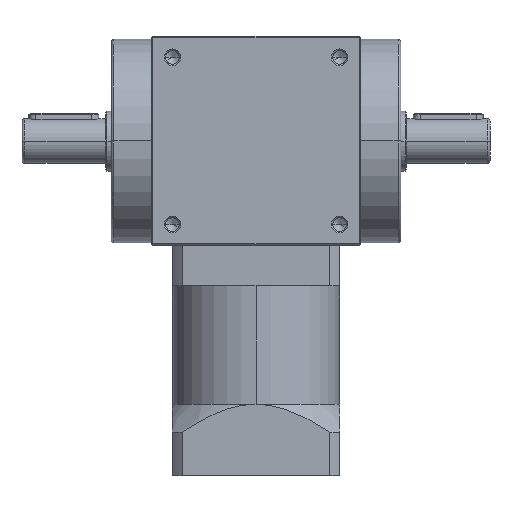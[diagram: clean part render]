
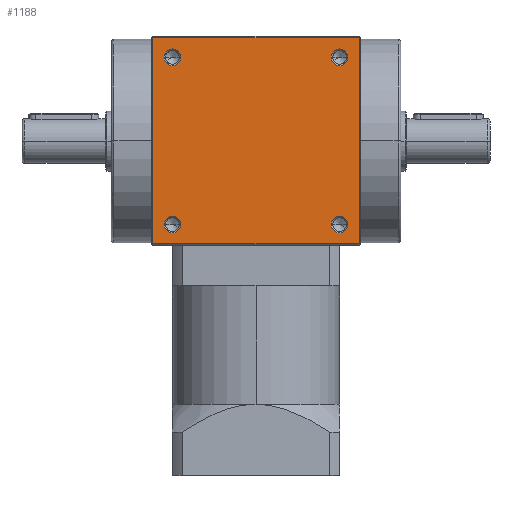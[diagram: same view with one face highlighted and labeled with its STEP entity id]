
A CAD part, top view. The second image highlights one B-rep face of the part: STEP entity #1188.
In plain terms, the highlighted planar face has unit normal (0, 0, 1).
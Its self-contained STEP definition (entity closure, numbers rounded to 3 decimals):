
#41 = CARTESIAN_POINT ( 'NONE',  ( 33., 30., 37.5 ) ) ;
#165 = DIRECTION ( 'NONE',  ( 0., 0., -1. ) ) ;
#224 = AXIS2_PLACEMENT_3D ( 'NONE', #1734, #4030, #7824 ) ;
#314 = ORIENTED_EDGE ( 'NONE', *, *, #6666, .T. ) ;
#406 = AXIS2_PLACEMENT_3D ( 'NONE', #3429, #3557, #490 ) ;
#490 = DIRECTION ( 'NONE',  ( -1., 0., 0. ) ) ;
#520 = CARTESIAN_POINT ( 'NONE',  ( -30., 30., 37.5 ) ) ;
#644 = CARTESIAN_POINT ( 'NONE',  ( 30., 30., 37.5 ) ) ;
#643 = VECTOR ( 'NONE', #5135, 1000. ) ;
#816 = DIRECTION ( 'NONE',  ( -1., 0., 0. ) ) ;
#983 = CARTESIAN_POINT ( 'NONE',  ( 0., -37., 37.5 ) ) ;
#1014 = VECTOR ( 'NONE', #9259, 1000. ) ;
#1105 = EDGE_LOOP ( 'NONE', ( #3261, #314 ) ) ;
#1188 = ADVANCED_FACE ( 'NONE', ( #5307, #4345, #5920, #3864, #3046 ), #5542, .F. ) ;
#1217 = VERTEX_POINT ( 'NONE', #8556 ) ;
#1344 = EDGE_CURVE ( 'NONE', #1897, #4142, #3997, .T. ) ;
#1401 = VERTEX_POINT ( 'NONE', #3570 ) ;
#1595 = LINE ( 'NONE', #6840, #1014 ) ;
#1614 = VERTEX_POINT ( 'NONE', #6901 ) ;
#1715 = EDGE_CURVE ( 'NONE', #3145, #5729, #5777, .T. ) ;
#1734 = CARTESIAN_POINT ( 'NONE',  ( -30., -30., 37.5 ) ) ;
#1737 = DIRECTION ( 'NONE',  ( 0., 0., -1. ) ) ;
#1738 = ORIENTED_EDGE ( 'NONE', *, *, #2534, .T. ) ;
#1882 = CARTESIAN_POINT ( 'NONE',  ( -37., -37., 37.5 ) ) ;
#1897 = VERTEX_POINT ( 'NONE', #6557 ) ;
#2459 = CARTESIAN_POINT ( 'NONE',  ( -27., 30., 37.5 ) ) ;
#2474 = VERTEX_POINT ( 'NONE', #7538 ) ;
#2534 = EDGE_CURVE ( 'NONE', #1401, #1614, #1595, .T. ) ;
#2751 = DIRECTION ( 'NONE',  ( 0., 1., 0. ) ) ;
#2802 = DIRECTION ( 'NONE',  ( -1., 0., 0. ) ) ;
#2975 = AXIS2_PLACEMENT_3D ( 'NONE', #3751, #165, #816 ) ;
#3046 = FACE_OUTER_BOUND ( 'NONE', #5190, .T. ) ;
#3145 = VERTEX_POINT ( 'NONE', #1882 ) ;
#3234 = EDGE_CURVE ( 'NONE', #1217, #3747, #4270, .T. ) ;
#3261 = ORIENTED_EDGE ( 'NONE', *, *, #6531, .T. ) ;
#3429 = CARTESIAN_POINT ( 'NONE',  ( 30., 30., 37.5 ) ) ;
#3476 = EDGE_LOOP ( 'NONE', ( #4485, #5327 ) ) ;
#3557 = DIRECTION ( 'NONE',  ( 0., 0., -1. ) ) ;
#3568 = CIRCLE ( 'NONE', #2975, 3. ) ;
#3570 = CARTESIAN_POINT ( 'NONE',  ( 37., 37., 37.5 ) ) ;
#3663 = EDGE_CURVE ( 'NONE', #1614, #3145, #6547, .T. ) ;
#3728 = VECTOR ( 'NONE', #7715, 1000. ) ;
#3747 = VERTEX_POINT ( 'NONE', #41 ) ;
#3751 = CARTESIAN_POINT ( 'NONE',  ( -30., 30., 37.5 ) ) ;
#3806 = EDGE_LOOP ( 'NONE', ( #6471, #7867 ) ) ;
#3851 = VERTEX_POINT ( 'NONE', #9284 ) ;
#3864 = FACE_BOUND ( 'NONE', #3806, .T. ) ;
#3997 = CIRCLE ( 'NONE', #8738, 3. ) ;
#4030 = DIRECTION ( 'NONE',  ( 0., 0., -1. ) ) ;
#4060 = DIRECTION ( 'NONE',  ( 0., 0., -1. ) ) ;
#4142 = VERTEX_POINT ( 'NONE', #6128 ) ;
#4224 = DIRECTION ( 'NONE',  ( 0., 0., -1. ) ) ;
#4270 = CIRCLE ( 'NONE', #4954, 3. ) ;
#4285 = CIRCLE ( 'NONE', #224, 3. ) ;
#4345 = FACE_BOUND ( 'NONE', #1105, .T. ) ;
#4418 = AXIS2_PLACEMENT_3D ( 'NONE', #5835, #4224, #5762 ) ;
#4438 = DIRECTION ( 'NONE',  ( 0., 0., -1. ) ) ;
#4485 = ORIENTED_EDGE ( 'NONE', *, *, #1344, .T. ) ;
#4789 = CIRCLE ( 'NONE', #7980, 3. ) ;
#4954 = AXIS2_PLACEMENT_3D ( 'NONE', #644, #4438, #7505 ) ;
#5060 = ORIENTED_EDGE ( 'NONE', *, *, #3663, .T. ) ;
#5135 = DIRECTION ( 'NONE',  ( 0., -1., 0. ) ) ;
#5190 = EDGE_LOOP ( 'NONE', ( #5060, #5989, #7281, #1738 ) ) ;
#5307 = FACE_BOUND ( 'NONE', #3476, .T. ) ;
#5327 = ORIENTED_EDGE ( 'NONE', *, *, #9645, .T. ) ;
#5375 = EDGE_CURVE ( 'NONE', #7087, #2474, #4789, .T. ) ;
#5457 = VECTOR ( 'NONE', #2751, 1000. ) ;
#5542 = PLANE ( 'NONE',  #9749 ) ;
#5729 = VERTEX_POINT ( 'NONE', #9399 ) ;
#5762 = DIRECTION ( 'NONE',  ( -1., 0., 0. ) ) ;
#5763 = CIRCLE ( 'NONE', #406, 3. ) ;
#5777 = LINE ( 'NONE', #983, #3728 ) ;
#5814 = CARTESIAN_POINT ( 'NONE',  ( -30., -30., 37.5 ) ) ;
#5835 = CARTESIAN_POINT ( 'NONE',  ( 30., -30., 37.5 ) ) ;
#5920 = FACE_BOUND ( 'NONE', #9341, .T. ) ;
#5989 = ORIENTED_EDGE ( 'NONE', *, *, #1715, .T. ) ;
#6128 = CARTESIAN_POINT ( 'NONE',  ( 27., -30., 37.5 ) ) ;
#6170 = AXIS2_PLACEMENT_3D ( 'NONE', #5814, #4060, #8814 ) ;
#6290 = CARTESIAN_POINT ( 'NONE',  ( 0., 0., 37.5 ) ) ;
#6471 = ORIENTED_EDGE ( 'NONE', *, *, #5375, .T. ) ;
#6531 = EDGE_CURVE ( 'NONE', #8175, #3851, #4285, .T. ) ;
#6547 = LINE ( 'NONE', #8897, #643 ) ;
#6557 = CARTESIAN_POINT ( 'NONE',  ( 33., -30., 37.5 ) ) ;
#6609 = DIRECTION ( 'NONE',  ( 0., 0., -1. ) ) ;
#6641 = DIRECTION ( 'NONE',  ( -1., 0., 0. ) ) ;
#6666 = EDGE_CURVE ( 'NONE', #3851, #8175, #9534, .T. ) ;
#6840 = CARTESIAN_POINT ( 'NONE',  ( 0., 37., 37.5 ) ) ;
#6901 = CARTESIAN_POINT ( 'NONE',  ( -37., 37., 37.5 ) ) ;
#6960 = EDGE_CURVE ( 'NONE', #2474, #7087, #3568, .T. ) ;
#6970 = ORIENTED_EDGE ( 'NONE', *, *, #9648, .T. ) ;
#7050 = DIRECTION ( 'NONE',  ( -1., 0., 0. ) ) ;
#7087 = VERTEX_POINT ( 'NONE', #2459 ) ;
#7191 = CARTESIAN_POINT ( 'NONE',  ( -27., -30., 37.5 ) ) ;
#7281 = ORIENTED_EDGE ( 'NONE', *, *, #7790, .T. ) ;
#7320 = DIRECTION ( 'NONE',  ( 0., 0., -1. ) ) ;
#7505 = DIRECTION ( 'NONE',  ( -1., 0., 0. ) ) ;
#7538 = CARTESIAN_POINT ( 'NONE',  ( -33., 30., 37.5 ) ) ;
#7715 = DIRECTION ( 'NONE',  ( 1., 0., 0. ) ) ;
#7790 = EDGE_CURVE ( 'NONE', #5729, #1401, #8899, .T. ) ;
#7824 = DIRECTION ( 'NONE',  ( -1., 0., 0. ) ) ;
#7867 = ORIENTED_EDGE ( 'NONE', *, *, #6960, .T. ) ;
#7980 = AXIS2_PLACEMENT_3D ( 'NONE', #520, #7320, #2802 ) ;
#8175 = VERTEX_POINT ( 'NONE', #7191 ) ;
#8433 = ORIENTED_EDGE ( 'NONE', *, *, #3234, .T. ) ;
#8556 = CARTESIAN_POINT ( 'NONE',  ( 27., 30., 37.5 ) ) ;
#8738 = AXIS2_PLACEMENT_3D ( 'NONE', #8787, #6609, #6641 ) ;
#8760 = CARTESIAN_POINT ( 'NONE',  ( 37., 0., 37.5 ) ) ;
#8787 = CARTESIAN_POINT ( 'NONE',  ( 30., -30., 37.5 ) ) ;
#8814 = DIRECTION ( 'NONE',  ( -1., 0., 0. ) ) ;
#8839 = CIRCLE ( 'NONE', #4418, 3. ) ;
#8897 = CARTESIAN_POINT ( 'NONE',  ( -37., 0., 37.5 ) ) ;
#8899 = LINE ( 'NONE', #8760, #5457 ) ;
#9259 = DIRECTION ( 'NONE',  ( -1., 0., 0. ) ) ;
#9284 = CARTESIAN_POINT ( 'NONE',  ( -33., -30., 37.5 ) ) ;
#9341 = EDGE_LOOP ( 'NONE', ( #6970, #8433 ) ) ;
#9399 = CARTESIAN_POINT ( 'NONE',  ( 37., -37., 37.5 ) ) ;
#9534 = CIRCLE ( 'NONE', #6170, 3. ) ;
#9645 = EDGE_CURVE ( 'NONE', #4142, #1897, #8839, .T. ) ;
#9648 = EDGE_CURVE ( 'NONE', #3747, #1217, #5763, .T. ) ;
#9749 = AXIS2_PLACEMENT_3D ( 'NONE', #6290, #1737, #7050 ) ;
